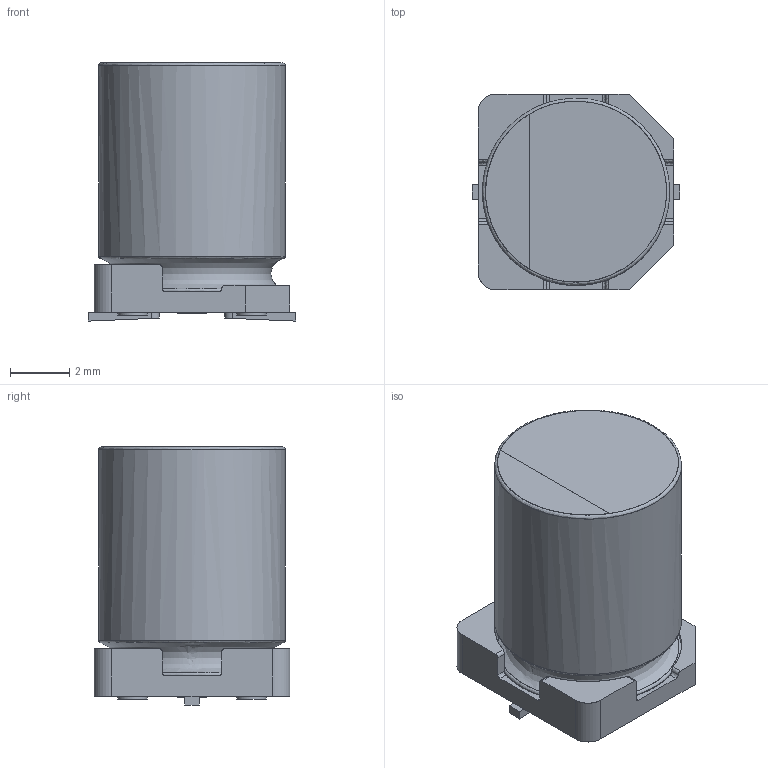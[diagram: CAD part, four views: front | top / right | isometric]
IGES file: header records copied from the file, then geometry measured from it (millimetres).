
Start section: JAMA-IS VERSION  1.0
Bounding box: 7 x 6.6 x 8.7 mm (x, y, z)
Surface area: 356.8 mm2 (no closed solid volume)
Topology: 0 solids, 0 shells, 74 faces, 994 edges, 976 vertices
Faces by surface type: bspline 74
